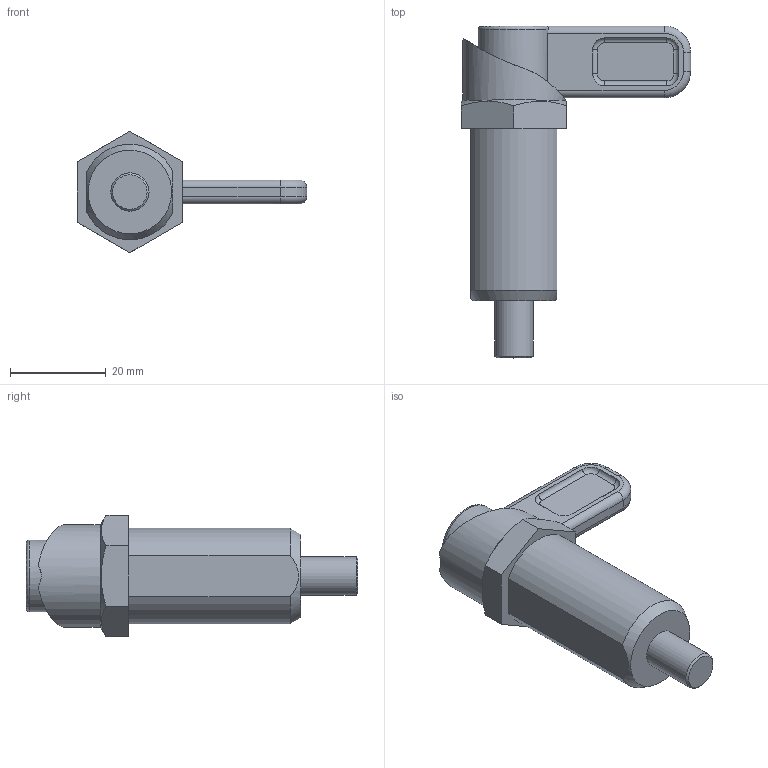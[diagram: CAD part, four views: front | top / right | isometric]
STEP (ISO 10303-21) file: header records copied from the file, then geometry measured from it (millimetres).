
FILE_DESCRIPTION( ( 'STEP AP203' ), '1' );
FILE_NAME( 'C:/Temp/Ganter_Step_05_03_2020/data/3_1/gn_612.8/gn612_8_a/Indexing plunger GN 612.8-8-M20x1,5-A (deactivated).stp', '2020-03-12T09:12:21', ( 'License CC BY-ND 4.0' ), ( 'CADENAS' ), ' ', 'PARTsolutions', ' ' );
FILE_SCHEMA( ( 'CONFIG_CONTROL_DESIGN' ) );
Length unit declared in the file: millimetre
Products named in the file (3): Indexing plunger GN 612.8-8-M20x1,5-A (deactivated); _Indexing plunger GN 612.8-8-M20x1,5-A (1)_2; _Rastriegel GN 612.8-8-M20x1,5-A (1)_1
Assembly tree (2 placements, depth 2):
  Indexing plunger GN 612.8-8-M20x1,5-A (deactivated)
    _Indexing plunger GN 612.8-8-M20x1,5-A (1)_2
    _Rastriegel GN 612.8-8-M20x1,5-A (1)_1
Bounding box: 48 x 69.5 x 25.4 mm (x, y, z)
Volume: 19479.1 mm3; surface area: 8924.8 mm2
Topology: 2 solids, 2 shells, 72 faces, 166 edges, 107 vertices
Faces by surface type: cylinder 31, plane 25, torus 13, cone 3
Full cylindrical faces by diameter (mm): 8 x4, 9 x2, 15 x1, 15.5 x1, 21.5 x1
Entity records: 2441 total; most frequent: CARTESIAN_POINT 737, DIRECTION 350, ORIENTED_EDGE 304, EDGE_CURVE 152, AXIS2_PLACEMENT_3D 148, VERTEX_POINT 104, EDGE_LOOP 94, FACE_OUTER_BOUND 80
